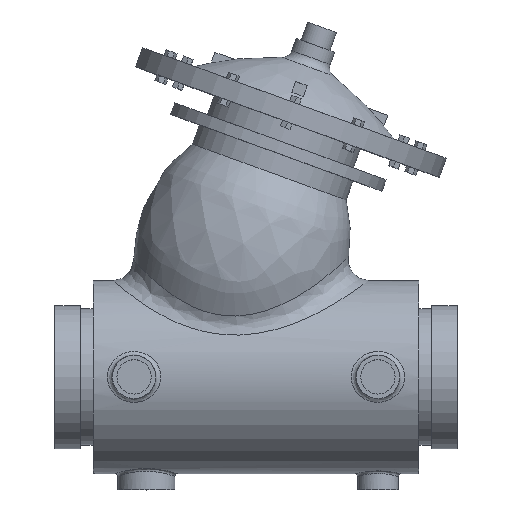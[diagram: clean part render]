
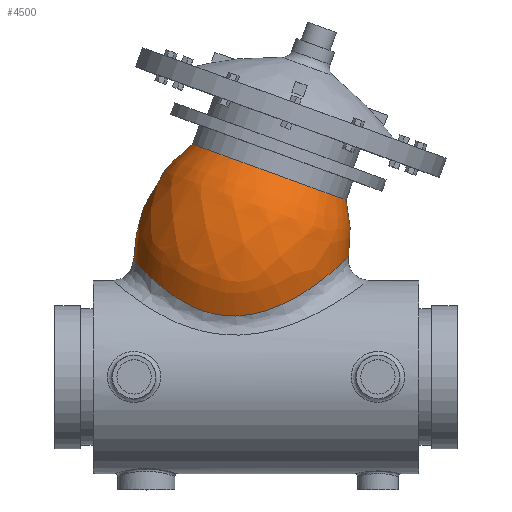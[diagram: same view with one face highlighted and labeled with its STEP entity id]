
A CAD part, top view. The second image highlights one B-rep face of the part: STEP entity #4500.
In plain terms, the highlighted free-form (B-spline) face has degree [2, 2] with [3, 9] control points.
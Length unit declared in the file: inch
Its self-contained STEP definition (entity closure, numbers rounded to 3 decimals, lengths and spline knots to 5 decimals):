
#256=(
BOUNDED_CURVE()
B_SPLINE_CURVE(2,(#6661,#6662,#6663),.UNSPECIFIED.,.F.,.F.)
B_SPLINE_CURVE_WITH_KNOTS((3,3),(-0.59166,0.52574),
 .UNSPECIFIED.)
CURVE()
GEOMETRIC_REPRESENTATION_ITEM()
RATIONAL_B_SPLINE_CURVE((1.,0.846,0.996))
REPRESENTATION_ITEM('')
);
#259=(
BOUNDED_SURFACE()
B_SPLINE_SURFACE(2,2,((#6629,#6630,#6631,#6632,#6633,#6634,#6635,#6636,
#6637),(#6638,#6639,#6640,#6641,#6642,#6643,#6644,#6645,#6646),(#6647,#6648,
#6649,#6650,#6651,#6652,#6653,#6654,#6655)),.UNSPECIFIED.,.F.,.T.,.F.)
B_SPLINE_SURFACE_WITH_KNOTS((3,3),(3,2,2,2,3),(-0.53959,0.59166),
(-3.14159,-1.5708,0.,1.5708,3.14159),
 .UNSPECIFIED.)
GEOMETRIC_REPRESENTATION_ITEM()
RATIONAL_B_SPLINE_SURFACE(((1.,0.707,1.,0.707,1.,
0.707,1.,0.707,1.),(0.844,0.597,
0.844,0.597,0.844,0.597,0.844,
0.597,0.844),(1.,0.707,1.,0.707,
1.,0.707,1.,0.707,1.)))
REPRESENTATION_ITEM('')
SURFACE()
);
#1320=FACE_OUTER_BOUND('',#1567,.T.);
#1567=EDGE_LOOP('',(#3039,#3040,#3041,#3042,#3043,#3044,#3045));
#1849=B_SPLINE_CURVE_WITH_KNOTS('',3,(#6416,#6417,#6418,#6419,#6420,#6421,
#6422,#6423,#6424,#6425,#6426,#6427,#6428,#6429,#6430,#6431,#6432,#6433,
#6434,#6435,#6436,#6437),.UNSPECIFIED.,.F.,.F.,(4,1,1,1,1,1,1,1,1,1,1,1,
1,1,1,1,1,1,1,4),(0.,1.34674,2.69348,4.04022,
5.38696,7.18262,8.97827,9.8761,10.77393,
12.56958,14.36524,16.16089,17.95654,19.7522,
21.54785,23.34351,25.13916,26.93482,28.73047,
29.26575),.UNSPECIFIED.);
#1850=B_SPLINE_CURVE_WITH_KNOTS('',3,(#6438,#6439,#6440,#6441,#6442,#6443,
#6444,#6445,#6446),.UNSPECIFIED.,.F.,.F.,(4,1,1,1,1,1,4),(29.26575,
29.6283,30.52613,32.32178,35.01526,36.362,
37.70874),.UNSPECIFIED.);
#1899=CIRCLE('',#4766,2.);
#1900=CIRCLE('',#4767,2.);
#1901=CIRCLE('',#4768,2.);
#1971=VERTEX_POINT('',#6413);
#1972=VERTEX_POINT('',#6415);
#1989=VERTEX_POINT('',#6656);
#1990=VERTEX_POINT('',#6657);
#1991=VERTEX_POINT('',#6659);
#2394=EDGE_CURVE('',#1971,#1972,#1849,.T.);
#2395=EDGE_CURVE('',#1972,#1971,#1850,.T.);
#2416=EDGE_CURVE('',#1989,#1990,#1899,.T.);
#2417=EDGE_CURVE('',#1991,#1989,#1900,.T.);
#2418=EDGE_CURVE('',#1991,#1972,#256,.T.);
#2419=EDGE_CURVE('',#1990,#1991,#1901,.T.);
#3039=ORIENTED_EDGE('',*,*,#2416,.F.);
#3040=ORIENTED_EDGE('',*,*,#2417,.F.);
#3041=ORIENTED_EDGE('',*,*,#2418,.T.);
#3042=ORIENTED_EDGE('',*,*,#2394,.F.);
#3043=ORIENTED_EDGE('',*,*,#2395,.F.);
#3044=ORIENTED_EDGE('',*,*,#2418,.F.);
#3045=ORIENTED_EDGE('',*,*,#2419,.F.);
#4500=ADVANCED_FACE('',(#1320),#259,.F.);
#4766=AXIS2_PLACEMENT_3D('',#6658,#5099,#5100);
#4767=AXIS2_PLACEMENT_3D('',#6660,#5101,#5102);
#4768=AXIS2_PLACEMENT_3D('',#6664,#5103,#5104);
#5099=DIRECTION('center_axis',(0.342,0.94,0.));
#5100=DIRECTION('ref_axis',(0.94,-0.342,0.));
#5101=DIRECTION('center_axis',(0.342,0.94,0.));
#5102=DIRECTION('ref_axis',(0.94,-0.342,0.));
#5103=DIRECTION('center_axis',(0.342,0.94,0.));
#5104=DIRECTION('ref_axis',(0.94,-0.342,0.));
#6413=CARTESIAN_POINT('',(2.06202,2.75218,-0.90138));
#6415=CARTESIAN_POINT('',(-0.94516,1.52453,-2.12105));
#6416=CARTESIAN_POINT('Ctrl Pts',(2.06202,2.75218,-0.90138));
#6417=CARTESIAN_POINT('Ctrl Pts',(2.14162,2.82383,-0.73428));
#6418=CARTESIAN_POINT('Ctrl Pts',(2.2587,2.9343,-0.36719));
#6419=CARTESIAN_POINT('Ctrl Pts',(2.2776,2.95266,0.23186));
#6420=CARTESIAN_POINT('Ctrl Pts',(2.13561,2.81723,0.79952));
#6421=CARTESIAN_POINT('Ctrl Pts',(1.82882,2.54305,1.32958));
#6422=CARTESIAN_POINT('Ctrl Pts',(1.34699,2.16406,1.75303));
#6423=CARTESIAN_POINT('Ctrl Pts',(0.80186,1.83482,1.98173));
#6424=CARTESIAN_POINT('Ctrl Pts',(0.31675,1.6337,2.08865));
#6425=CARTESIAN_POINT('Ctrl Pts',(-0.19283,1.49112,2.14957));
#6426=CARTESIAN_POINT('Ctrl Pts',(-0.86013,1.46279,2.14992));
#6427=CARTESIAN_POINT('Ctrl Pts',(-1.60238,1.70745,2.02747));
#6428=CARTESIAN_POINT('Ctrl Pts',(-2.21757,2.11356,1.74103));
#6429=CARTESIAN_POINT('Ctrl Pts',(-2.68638,2.53453,1.25339));
#6430=CARTESIAN_POINT('Ctrl Pts',(-2.97117,2.83576,0.56672));
#6431=CARTESIAN_POINT('Ctrl Pts',(-3.02402,2.89531,-0.23451));
#6432=CARTESIAN_POINT('Ctrl Pts',(-2.83166,2.68399,-0.98584));
#6433=CARTESIAN_POINT('Ctrl Pts',(-2.43462,2.29689,-1.56118));
#6434=CARTESIAN_POINT('Ctrl Pts',(-1.87829,1.86774,-1.92946));
#6435=CARTESIAN_POINT('Ctrl Pts',(-1.34782,1.61433,-2.0718));
#6436=CARTESIAN_POINT('Ctrl Pts',(-1.02121,1.53822,-2.11343));
#6437=CARTESIAN_POINT('Ctrl Pts',(-0.94521,1.52454,-2.12106));
#6438=CARTESIAN_POINT('Ctrl Pts',(-0.94521,1.52454,-2.12106));
#6439=CARTESIAN_POINT('Ctrl Pts',(-0.89373,1.51528,-2.12623));
#6440=CARTESIAN_POINT('Ctrl Pts',(-0.71316,1.48912,-2.14111));
#6441=CARTESIAN_POINT('Ctrl Pts',(-0.26566,1.47913,-2.15224));
#6442=CARTESIAN_POINT('Ctrl Pts',(0.51645,1.66396,-2.08421));
#6443=CARTESIAN_POINT('Ctrl Pts',(1.25135,2.09614,-1.82344));
#6444=CARTESIAN_POINT('Ctrl Pts',(1.78135,2.50449,-1.36987));
#6445=CARTESIAN_POINT('Ctrl Pts',(1.98243,2.68053,-1.06847));
#6446=CARTESIAN_POINT('Ctrl Pts',(2.06202,2.75218,-0.90138));
#6629=CARTESIAN_POINT('Ctrl Pts',(-0.95869,1.48725,-2.09764));
#6630=CARTESIAN_POINT('Ctrl Pts',(-2.92983,2.20468,-2.09764));
#6631=CARTESIAN_POINT('Ctrl Pts',(-2.92983,2.20468,0.));
#6632=CARTESIAN_POINT('Ctrl Pts',(-2.92983,2.20468,2.09764));
#6633=CARTESIAN_POINT('Ctrl Pts',(-0.95869,1.48725,2.09764));
#6634=CARTESIAN_POINT('Ctrl Pts',(1.01246,0.76981,2.09764));
#6635=CARTESIAN_POINT('Ctrl Pts',(1.01246,0.76981,0.));
#6636=CARTESIAN_POINT('Ctrl Pts',(1.01246,0.76981,-2.09764));
#6637=CARTESIAN_POINT('Ctrl Pts',(-0.95869,1.48725,-2.09764));
#6638=CARTESIAN_POINT('Ctrl Pts',(-0.30674,3.27845,-3.2392));
#6639=CARTESIAN_POINT('Ctrl Pts',(-3.3506,4.38633,-3.2392));
#6640=CARTESIAN_POINT('Ctrl Pts',(-3.3506,4.38633,0.));
#6641=CARTESIAN_POINT('Ctrl Pts',(-3.3506,4.38633,3.2392));
#6642=CARTESIAN_POINT('Ctrl Pts',(-0.30674,3.27845,3.2392));
#6643=CARTESIAN_POINT('Ctrl Pts',(2.73711,2.17058,3.2392));
#6644=CARTESIAN_POINT('Ctrl Pts',(2.73711,2.17058,0.));
#6645=CARTESIAN_POINT('Ctrl Pts',(2.73711,2.17058,-3.2392));
#6646=CARTESIAN_POINT('Ctrl Pts',(-0.30674,3.27845,-3.2392));
#6647=CARTESIAN_POINT('Ctrl Pts',(0.324,5.01141,-2.));
#6648=CARTESIAN_POINT('Ctrl Pts',(-1.55538,5.69545,-2.));
#6649=CARTESIAN_POINT('Ctrl Pts',(-1.55538,5.69545,0.));
#6650=CARTESIAN_POINT('Ctrl Pts',(-1.55538,5.69545,2.));
#6651=CARTESIAN_POINT('Ctrl Pts',(0.324,5.01141,2.));
#6652=CARTESIAN_POINT('Ctrl Pts',(2.20339,4.32737,2.));
#6653=CARTESIAN_POINT('Ctrl Pts',(2.20339,4.32737,0.));
#6654=CARTESIAN_POINT('Ctrl Pts',(2.20339,4.32737,-2.));
#6655=CARTESIAN_POINT('Ctrl Pts',(0.324,5.01141,-2.));
#6656=CARTESIAN_POINT('',(-1.55538,5.69545,0.));
#6657=CARTESIAN_POINT('',(2.20339,4.32737,0.));
#6658=CARTESIAN_POINT('Origin',(0.324,5.01141,0.));
#6659=CARTESIAN_POINT('',(0.324,5.01141,-2.));
#6660=CARTESIAN_POINT('Origin',(0.324,5.01141,0.));
#6661=CARTESIAN_POINT('Ctrl Pts',(0.324,5.01141,-2.));
#6662=CARTESIAN_POINT('Ctrl Pts',(-0.29761,3.30354,-3.22126));
#6663=CARTESIAN_POINT('Ctrl Pts',(-0.94512,1.52451,-2.12104));
#6664=CARTESIAN_POINT('Origin',(0.324,5.01141,0.));
